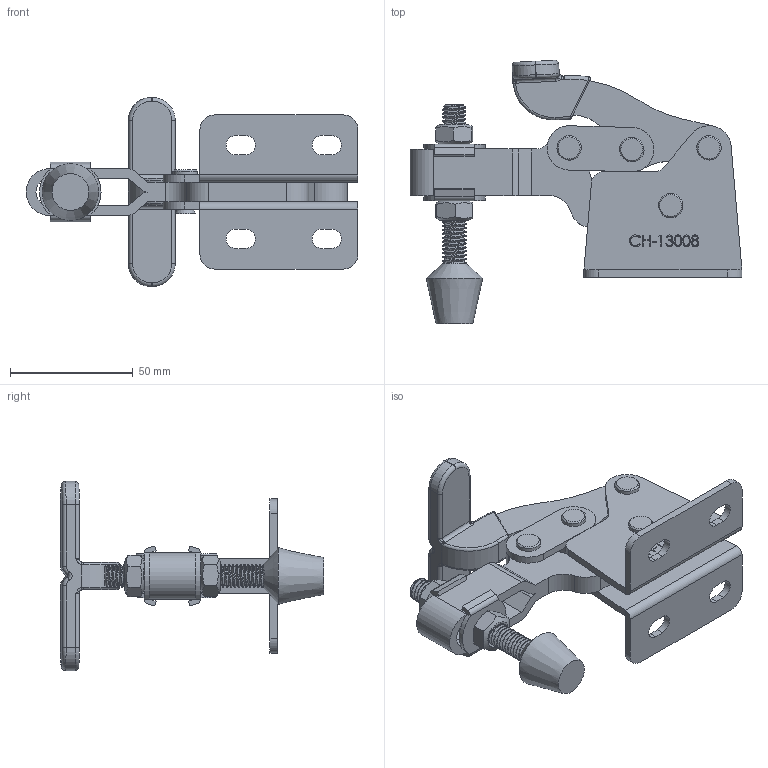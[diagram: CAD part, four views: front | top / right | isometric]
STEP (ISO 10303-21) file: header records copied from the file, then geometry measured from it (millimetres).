
FILE_DESCRIPTION(/* description */ ('STEP AP203'),/* implementation_level */ '2;1');
FILE_NAME(/* name */ 'D:\Vault_2016\Projekty\Clamptek\STRONA\Vertical toggle clamp\CH-13008\CH-13008_ZAMKNIETY.stp',/* time_stamp */ '2019-01-16T12:57:25+01:00',/* author */ ('Łukasz'),/* organization */ ('Î¢ÈíÖÐ¹ú'),/* preprocessor_version */ 'ST-DEVELOPER v17.2',/* originating_system */ 'Autodesk Inventor 2019',/* authorisation */ '');
FILE_SCHEMA (('AUTOMOTIVE_DESIGN { 1 0 10303 214 3 1 1 }'));
Products named in the file (10): CH-13008_ZAMKNIETY; CH-13008-03 T-HANDLE; CH-13008-02 U-BAR; CH-13008-01 FLANGED BASE; CH-13008-04 CONNECTING-PIATE; CH-FC-38312 SPINDLE SUPPLIED; CH-FC-38312 Nut; CH-13008-05; CH-13008-06; CH-FW-380
Assembly tree (18 placements, depth 2):
  CH-13008_ZAMKNIETY
    CH-13008-05  x4
    CH-13008-03 T-HANDLE
    CH-13008-02 U-BAR
    CH-13008-06  x4
    CH-13008-01 FLANGED BASE
    CH-FC-38312 Nut  x2
    CH-13008-04 CONNECTING-PIATE  x2
    CH-FC-38312 SPINDLE SUPPLIED
    CH-FW-380  x2
Bounding box: 135.03 x 107.02 x 77 mm (x, y, z)
Volume: 88185.1 mm3; surface area: 55681.9 mm2
Topology: 19 solids, 20 shells, 2633 faces, 6422 edges, 3858 vertices
Faces by surface type: plane 1543, cylinder 799, bspline 206, cone 61, torus 24
Full cylindrical faces by diameter (mm): 1.371 x1, 1.542 x1, 6.395 x4, 6.4 x12, 9.5 x48, 9.8 x2, 9.923 x4, 13.856 x1
Entity records: 68405 total; most frequent: CARTESIAN_POINT 42304, ORIENTED_EDGE 5624, DIRECTION 4911, EDGE_CURVE 2812, VERTEX_POINT 1762, AXIS2_PLACEMENT_3D 1719, LINE 1473, VECTOR 1473
